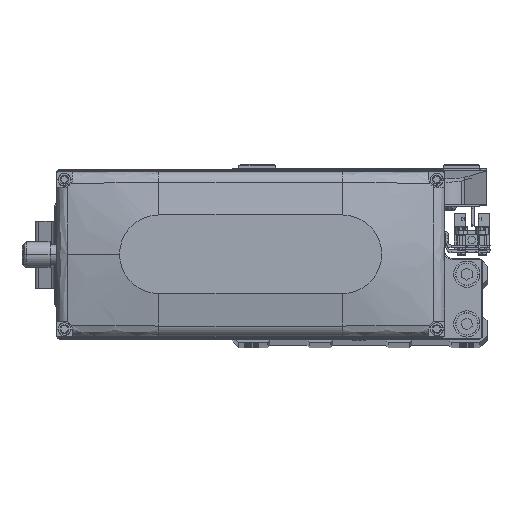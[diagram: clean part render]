
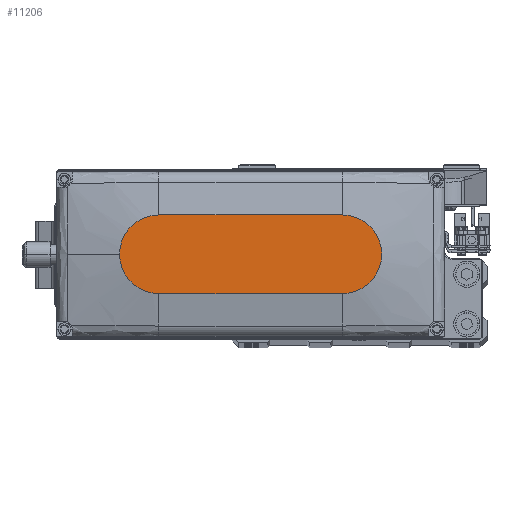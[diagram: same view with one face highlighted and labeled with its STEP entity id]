
A CAD part, top view. The second image highlights one B-rep face of the part: STEP entity #11206.
In plain terms, the highlighted planar face has unit normal (0, 0, 1).
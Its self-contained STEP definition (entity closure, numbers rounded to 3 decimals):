
#72 = EDGE_CURVE ( 'NONE', #9809, #37796, #42147, .T. ) ;
#532 = CARTESIAN_POINT ( 'NONE',  ( 35., 15., 35. ) ) ;
#1902 = CARTESIAN_POINT ( 'NONE',  ( 35., 0., 35. ) ) ;
#2493 = CARTESIAN_POINT ( 'NONE',  ( -35., 15., 35. ) ) ;
#4011 = DIRECTION ( 'NONE',  ( 0., 0., 1. ) ) ;
#6267 = ORIENTED_EDGE ( 'NONE', *, *, #12157, .T. ) ;
#7227 = AXIS2_PLACEMENT_3D ( 'NONE', #37823, #4011, #19073 ) ;
#8174 = CARTESIAN_POINT ( 'NONE',  ( 0., 0., 35. ) ) ;
#9809 = VERTEX_POINT ( 'NONE', #21503 ) ;
#11011 = AXIS2_PLACEMENT_3D ( 'NONE', #1902, #16980, #32025 ) ;
#11046 = AXIS2_PLACEMENT_3D ( 'NONE', #32197, #47239, #13471 ) ;
#11206 = ADVANCED_FACE ( 'NONE', ( #26930 ), #41959, .T. ) ;
#12157 = EDGE_CURVE ( 'NONE', #40593, #34967, #36327, .T. ) ;
#13471 = DIRECTION ( 'NONE',  ( 1., 0., 0. ) ) ;
#13758 = EDGE_CURVE ( 'NONE', #37796, #20338, #32246, .T. ) ;
#14229 = EDGE_CURVE ( 'NONE', #34967, #9809, #32286, .T. ) ;
#16980 = DIRECTION ( 'NONE',  ( 0., 0., 1. ) ) ;
#17353 = EDGE_CURVE ( 'NONE', #20338, #40593, #22204, .T. ) ;
#17569 = DIRECTION ( 'NONE',  ( -1., 0., 0. ) ) ;
#17585 = CARTESIAN_POINT ( 'NONE',  ( -35., 15., 35. ) ) ;
#18055 = ORIENTED_EDGE ( 'NONE', *, *, #17353, .T. ) ;
#19073 = DIRECTION ( 'NONE',  ( 1., 0., 0. ) ) ;
#19691 = CARTESIAN_POINT ( 'NONE',  ( -35., -15., 35. ) ) ;
#20338 = VERTEX_POINT ( 'NONE', #37749 ) ;
#21503 = CARTESIAN_POINT ( 'NONE',  ( -35., -15., 35. ) ) ;
#22204 = CIRCLE ( 'NONE', #7227, 15. ) ;
#23218 = DIRECTION ( 'NONE',  ( 0., 0., 1. ) ) ;
#23874 = AXIS2_PLACEMENT_3D ( 'NONE', #8174, #23218, #38260 ) ;
#26930 = FACE_OUTER_BOUND ( 'NONE', #26999, .T. ) ;
#26999 = EDGE_LOOP ( 'NONE', ( #6267, #34527, #46012, #30552, #18055 ) ) ;
#30552 = ORIENTED_EDGE ( 'NONE', *, *, #13758, .T. ) ;
#32025 = DIRECTION ( 'NONE',  ( 1., 0., 0. ) ) ;
#32197 = CARTESIAN_POINT ( 'NONE',  ( -35., 0., 35. ) ) ;
#32246 = CIRCLE ( 'NONE', #11011, 15. ) ;
#32286 = CIRCLE ( 'NONE', #11046, 15. ) ;
#34527 = ORIENTED_EDGE ( 'NONE', *, *, #14229, .T. ) ;
#34768 = DIRECTION ( 'NONE',  ( 1., 0., 0. ) ) ;
#34958 = VECTOR ( 'NONE', #34768, 1000. ) ;
#34967 = VERTEX_POINT ( 'NONE', #17585 ) ;
#35285 = VECTOR ( 'NONE', #17569, 1000. ) ;
#36327 = LINE ( 'NONE', #2493, #35285 ) ;
#37749 = CARTESIAN_POINT ( 'NONE',  ( 50., 0., 35. ) ) ;
#37796 = VERTEX_POINT ( 'NONE', #38564 ) ;
#37823 = CARTESIAN_POINT ( 'NONE',  ( 35., 0., 35. ) ) ;
#38260 = DIRECTION ( 'NONE',  ( 1., 0., 0. ) ) ;
#38564 = CARTESIAN_POINT ( 'NONE',  ( 35., -15., 35. ) ) ;
#40593 = VERTEX_POINT ( 'NONE', #532 ) ;
#41959 = PLANE ( 'NONE',  #23874 ) ;
#42147 = LINE ( 'NONE', #19691, #34958 ) ;
#46012 = ORIENTED_EDGE ( 'NONE', *, *, #72, .T. ) ;
#47239 = DIRECTION ( 'NONE',  ( 0., 0., 1. ) ) ;
